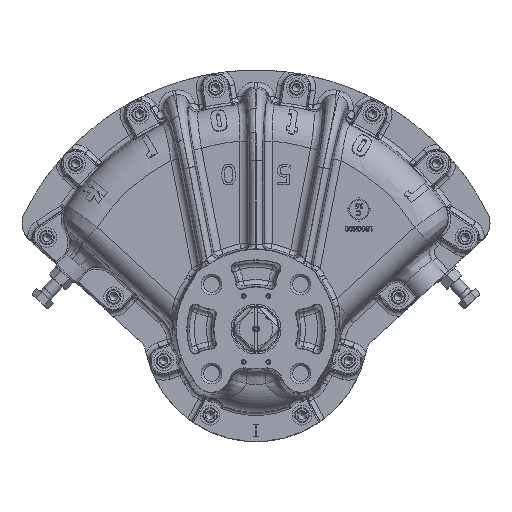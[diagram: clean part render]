
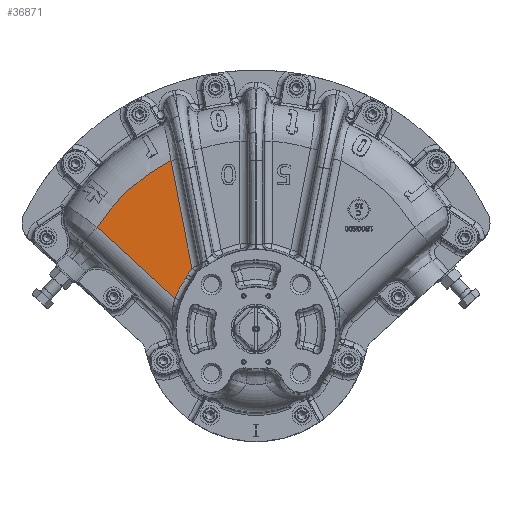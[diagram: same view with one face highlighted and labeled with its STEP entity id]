
A CAD part, top view. The second image highlights one B-rep face of the part: STEP entity #36871.
In plain terms, the highlighted planar face has unit normal (0, 0, 1).
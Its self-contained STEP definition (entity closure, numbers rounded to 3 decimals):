
#2061=LINE('',#100157,#3234);
#2062=LINE('',#100169,#3235);
#3234=VECTOR('',#48911,1000.);
#3235=VECTOR('',#48916,1000.);
#4999=B_SPLINE_CURVE_WITH_KNOTS('',3,(#100162,#100163,#100164,#100165),
 .UNSPECIFIED.,.F.,.F.,(4,4),(0.,0.004),.UNSPECIFIED.);
#13579=ORIENTED_EDGE('',*,*,#21180,.T.);
#13580=ORIENTED_EDGE('',*,*,#21181,.T.);
#13581=ORIENTED_EDGE('',*,*,#21182,.T.);
#13582=ORIENTED_EDGE('',*,*,#21183,.T.);
#13583=ORIENTED_EDGE('',*,*,#21184,.T.);
#13584=ORIENTED_EDGE('',*,*,#21185,.T.);
#21180=EDGE_CURVE('',#25534,#25535,#2061,.F.);
#21181=EDGE_CURVE('',#25535,#25536,#28085,.T.);
#21182=EDGE_CURVE('',#25536,#25537,#4999,.T.);
#21183=EDGE_CURVE('',#25537,#25538,#28086,.T.);
#21184=EDGE_CURVE('',#25538,#25539,#2062,.T.);
#21185=EDGE_CURVE('',#25539,#25534,#28087,.F.);
#25534=VERTEX_POINT('',#100158);
#25535=VERTEX_POINT('',#100159);
#25536=VERTEX_POINT('',#100161);
#25537=VERTEX_POINT('',#100166);
#25538=VERTEX_POINT('',#100168);
#25539=VERTEX_POINT('',#100170);
#28085=CIRCLE('',#41726,105.214);
#28086=CIRCLE('',#41727,31.244);
#28087=CIRCLE('',#41728,229.041);
#30708=EDGE_LOOP('',(#13579,#13580,#13581,#13582,#13583,#13584));
#33586=FACE_BOUND('',#30708,.T.);
#35110=PLANE('',#41725);
#36871=ADVANCED_FACE('',(#33586),#35110,.F.);
#41725=AXIS2_PLACEMENT_3D('',#100156,#48909,#48910);
#41726=AXIS2_PLACEMENT_3D('',#100160,#48912,#48913);
#41727=AXIS2_PLACEMENT_3D('',#100167,#48914,#48915);
#41728=AXIS2_PLACEMENT_3D('',#100171,#48917,#48918);
#48909=DIRECTION('',(0.,0.,-1.));
#48910=DIRECTION('',(-1.,0.,0.));
#48911=DIRECTION('',(-0.737,0.676,0.));
#48912=DIRECTION('',(0.,0.,-1.));
#48913=DIRECTION('',(-1.,0.,0.));
#48914=DIRECTION('',(0.,0.,-1.));
#48915=DIRECTION('',(-1.,0.,0.));
#48916=DIRECTION('',(-0.191,0.982,0.));
#48917=DIRECTION('',(0.,0.,-1.));
#48918=DIRECTION('',(-1.,0.,0.));
#100156=CARTESIAN_POINT('',(0.,0.,
171.33));
#100157=CARTESIAN_POINT('',(-95.472,34.64,171.33));
#100158=CARTESIAN_POINT('',(-192.727,123.758,171.33));
#100159=CARTESIAN_POINT('',(-98.379,37.304,171.33));
#100160=CARTESIAN_POINT('',(0.,0.,
171.33));
#100161=CARTESIAN_POINT('',(-84.766,62.328,171.33));
#100162=CARTESIAN_POINT('',(-84.766,62.328,171.33));
#100163=CARTESIAN_POINT('',(-84.052,63.3,171.33));
#100164=CARTESIAN_POINT('',(-83.473,64.346,171.33));
#100165=CARTESIAN_POINT('',(-83.029,65.468,171.33));
#100166=CARTESIAN_POINT('',(-83.029,65.468,171.33));
#100167=CARTESIAN_POINT('',(-53.975,53.975,171.33));
#100168=CARTESIAN_POINT('',(-77.882,74.091,171.33));
#100169=CARTESIAN_POINT('',(-61.169,-11.89,171.33));
#100170=CARTESIAN_POINT('',(-103.224,204.462,171.33));
#100171=CARTESIAN_POINT('',(0.,0.,
171.33));
